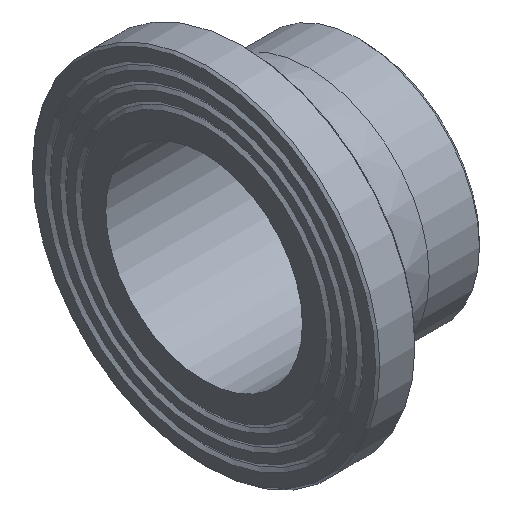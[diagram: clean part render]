
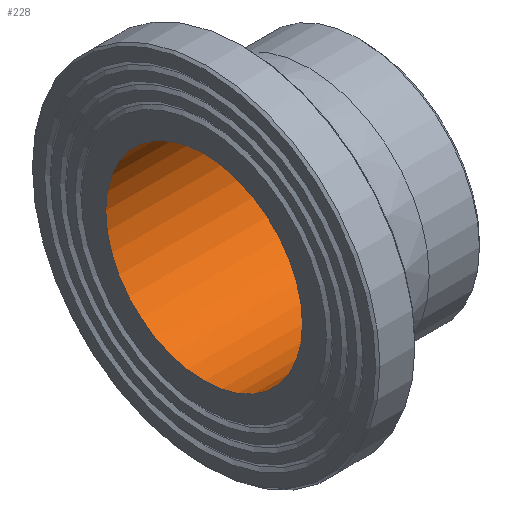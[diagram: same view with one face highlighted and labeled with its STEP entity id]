
A CAD part, isometric view. The second image highlights one B-rep face of the part: STEP entity #228.
In plain terms, the highlighted cylindrical face has radius 45 mm (diameter 90 mm), a full revolution.
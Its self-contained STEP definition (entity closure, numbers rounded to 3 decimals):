
#33=CYLINDRICAL_SURFACE('',#274,45.);
#50=ORIENTED_EDGE('',*,*,#79,.F.);
#51=ORIENTED_EDGE('',*,*,#76,.T.);
#76=EDGE_CURVE('',#96,#96,#116,.T.);
#79=EDGE_CURVE('',#99,#99,#119,.T.);
#96=VERTEX_POINT('',#383);
#99=VERTEX_POINT('',#390);
#116=CIRCLE('',#257,45.);
#119=CIRCLE('',#261,45.);
#150=EDGE_LOOP('',(#50));
#151=EDGE_LOOP('',(#51));
#190=FACE_BOUND('',#150,.T.);
#191=FACE_BOUND('',#151,.T.);
#228=ADVANCED_FACE('',(#190,#191),#33,.F.);
#257=AXIS2_PLACEMENT_3D('',#382,#303,#304);
#261=AXIS2_PLACEMENT_3D('',#389,#311,#312);
#274=AXIS2_PLACEMENT_3D('',#410,#337,#338);
#303=DIRECTION('',(-1.,0.,0.));
#304=DIRECTION('',(0.,0.,1.));
#311=DIRECTION('',(-1.,0.,0.));
#312=DIRECTION('',(0.,0.,1.));
#337=DIRECTION('',(-1.,0.,0.));
#338=DIRECTION('',(0.,0.,1.));
#382=CARTESIAN_POINT('',(0.,0.,0.));
#383=CARTESIAN_POINT('',(0.,0.,45.));
#389=CARTESIAN_POINT('',(73.,0.,0.));
#390=CARTESIAN_POINT('',(73.,0.,45.));
#410=CARTESIAN_POINT('',(60.,0.,0.));
